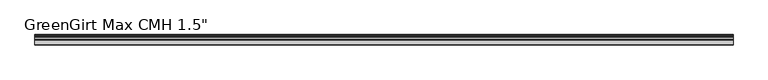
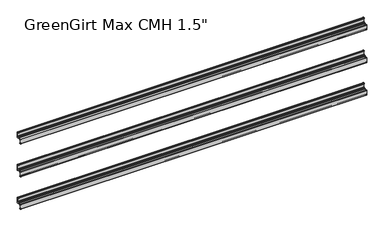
"""IFC4 building model written with IfcOpenShell, lengths in millimetres: fastener geometry."""

from ifc_helpers import new_model, si_unit, frame, origin, place, context, project, spatial, polyline, circle_curve, outline, extrude, source, transform, mapped, element, save
from ifc_brep_helpers import plane_surface, cylinder_surface, revolved_surface, advanced_brep


def fastener_4850408f(model_context):
    return source(origin(), model_context, "Body", "SolidModel", [
        advanced_brep(
        [(2540.1186361, -3.556, 882.269), (2540.1186361, -3.556, 851.281), (2540.1186361, -5.2832, 851.281), (2540.1186361, -5.2832, 855.472), (2540.1186361, -7.3152, 855.472), (2540.1186361, -7.3152, 851.281), (2540.1186361, -8.0772, 850.519), (2540.1186361, -17.7601563, 850.519), (2540.1186361, -17.7601563, 851.3674433), (2540.1186361, -20.4288947, 851.3674433), (2540.1186361, -20.4288947, 850.519), (2540.1186361, -37.3379766, 850.519), (2540.1186361, -38.0999766, 849.757), (2540.1186361, -38.1, 813.5196758), (2540.1186361, -37.3379766, 812.8), (2540.1186361, -33.7057766, 812.8), (2540.1186361, -31.6737766, 814.832), (2540.1186361, -31.6737766, 817.118), (2540.1186361, -33.7057766, 817.118), (2540.1186361, -33.7057766, 816.102), (2540.1186361, -35.4329766, 816.102), (2540.1186361, -35.4329766, 847.09), (2540.1186361, -33.7057766, 847.09), (2540.1186361, -33.7057766, 842.899), (2540.1186361, -31.6737766, 842.899), (2540.1186361, -31.6737766, 847.09), (2540.1186361, -30.9117766, 847.852), (2540.1186361, -20.4279799, 847.852), (2540.1186361, -20.4279799, 847.0030993), (2540.1186361, -17.7601563, 847.0030993), (2540.1186361, -17.7601563, 847.852), (2540.1186361, -3.429, 847.852), (2540.1186361, -2.667, 847.09), (2540.1186361, -2.667, 840.994), (2540.1186361, 0.0, 840.994), (2540.1186361, 0.0, 884.809), (2540.1186361, -0.762, 885.571), (2540.1186361, -5.2832, 885.571), (2540.1186361, -7.3152, 883.539), (2540.1186361, -7.3152, 881.253), (2540.1186361, -5.2832, 881.253), (2540.1186361, -5.2832, 882.269), (0.0, -3.556, 882.269), (0.0, -5.2832, 882.269), (0.0, -5.2832, 881.253), (0.0, -7.3152, 881.253), (0.0, -7.3152, 883.539), (0.0, -5.2832, 885.571), (0.0, -0.762, 885.571), (0.0, 0.0, 884.809), (0.0, 0.0, 840.994), (0.0, -2.667, 840.994), (0.0, -2.667, 847.09), (0.0, -3.429, 847.852), (0.0, -17.7601563, 847.852), (0.0, -17.7601563, 847.0030993), (0.0, -20.4279799, 847.0030993), (0.0, -20.4279799, 847.852), (0.0, -30.9117766, 847.852), (0.0, -31.6737766, 847.09), (0.0, -31.6737766, 842.899), (0.0, -33.7057766, 842.899), (0.0, -33.7057766, 847.09), (0.0, -35.4329766, 847.09), (0.0, -35.4329766, 816.102), (0.0, -33.7057766, 816.102), (0.0, -33.7057766, 817.118), (0.0, -31.6737766, 817.118), (0.0, -31.6737766, 814.832), (0.0, -33.7057766, 812.8), (0.0, -37.3379766, 812.8), (0.0, -38.0999766, 813.562), (0.0, -38.1, 849.6242174), (0.0, -37.3379766, 850.519), (0.0, -20.4288947, 850.519), (0.0, -20.4288947, 851.3674433), (0.0, -17.7601563, 851.3674433), (0.0, -17.7601563, 850.519), (0.0, -8.0772, 850.519), (0.0, -7.3152, 851.281), (0.0, -7.3152, 855.472), (0.0, -5.2832, 855.472), (0.0, -5.2832, 851.281), (0.0, -3.556, 851.281)],
        [
            (0, 1),
            (1, 2, circle_curve(frame((2540.1186361, -4.4196, 851.281), z_axis=(-1.0, 0.0, 0.0), x_axis=(0.0, 1.0, 0.0)), 0.8636)),
            (2, 3),
            (3, 4, circle_curve(frame((2540.1186361, -6.2992, 855.472), z_axis=(1.0, 0.0, 0.0), x_axis=(0.0, 1.0, 0.0)), 1.016)),
            (4, 5),
            (5, 6, circle_curve(frame((2540.1186361, -8.0772, 851.281), z_axis=(-1.0, 0.0, 0.0), x_axis=(0.0, 1.0, 0.0)), 0.762)),
            (6, 7),
            (7, 8),
            (8, 9, circle_curve(frame((2540.1186361, -19.0945255, 851.3674433), z_axis=(1.0, 0.0, 0.0), x_axis=(0.0, 1.0, 0.0)), 1.3343692)),
            (9, 10),
            (10, 11),
            (11, 12, circle_curve(frame((2540.1186361, -37.3379766, 849.757), z_axis=(1.0, 0.0, 0.0), x_axis=(0.0, 1.0, 0.0)), 0.762)),
            (12, 13),
            (13, 14, circle_curve(frame((2540.1186361, -37.3379766, 813.562), z_axis=(1.0, 0.0, 0.0), x_axis=(0.0, 1.0, 0.0)), 0.762)),
            (14, 15),
            (15, 16, circle_curve(frame((2540.1186361, -33.7057766, 814.832), z_axis=(1.0, 0.0, 0.0), x_axis=(0.0, 1.0, 0.0)), 2.032)),
            (16, 17),
            (17, 18, circle_curve(frame((2540.1186361, -32.6897766, 817.118), z_axis=(1.0, 0.0, 0.0), x_axis=(0.0, 1.0, 0.0)), 1.016)),
            (18, 19),
            (19, 20, circle_curve(frame((2540.1186361, -34.5693766, 816.102), z_axis=(-1.0, 0.0, 0.0), x_axis=(0.0, 1.0, 0.0)), 0.8636)),
            (20, 21),
            (21, 22, circle_curve(frame((2540.1186361, -34.5693766, 847.09), z_axis=(-1.0, 0.0, 0.0), x_axis=(0.0, 1.0, 0.0)), 0.8636)),
            (22, 23),
            (23, 24, circle_curve(frame((2540.1186361, -32.6897766, 842.899), z_axis=(1.0, 0.0, 0.0), x_axis=(0.0, 1.0, 0.0)), 1.016)),
            (24, 25),
            (25, 26, circle_curve(frame((2540.1186361, -30.9117766, 847.09), z_axis=(-1.0, 0.0, 0.0), x_axis=(0.0, 1.0, 0.0)), 0.762)),
            (26, 27),
            (27, 28),
            (28, 29, circle_curve(frame((2540.1186361, -19.0940681, 847.0030993), z_axis=(1.0, 0.0, 0.0), x_axis=(0.0, 1.0, 0.0)), 1.3339118)),
            (29, 30),
            (30, 31),
            (31, 32, circle_curve(frame((2540.1186361, -3.429, 847.09), z_axis=(-1.0, 0.0, 0.0), x_axis=(0.0, 1.0, 0.0)), 0.762)),
            (32, 33),
            (33, 34, circle_curve(frame((2540.1186361, -1.3335, 840.994), z_axis=(1.0, 0.0, 0.0), x_axis=(0.0, 1.0, 0.0)), 1.3335)),
            (34, 35),
            (35, 36, circle_curve(frame((2540.1186361, -0.762, 884.809), z_axis=(1.0, 0.0, 0.0), x_axis=(0.0, 1.0, 0.0)), 0.762)),
            (36, 37),
            (37, 38, circle_curve(frame((2540.1186361, -5.2832, 883.539), z_axis=(1.0, 0.0, 0.0), x_axis=(0.0, 1.0, 0.0)), 2.032)),
            (38, 39),
            (39, 40, circle_curve(frame((2540.1186361, -6.2992, 881.253), z_axis=(1.0, 0.0, 0.0), x_axis=(0.0, 1.0, 0.0)), 1.016)),
            (40, 41),
            (41, 0, circle_curve(frame((2540.1186361, -4.4196, 882.269), z_axis=(-1.0, 0.0, 0.0), x_axis=(0.0, 1.0, 0.0)), 0.8636)),
            (42, 43, circle_curve(frame((0.0, -4.4196, 882.269), z_axis=(1.0, 0.0, 0.0), x_axis=(0.0, 1.0, 0.0)), 0.8636)),
            (43, 44),
            (44, 45, circle_curve(frame((0.0, -6.2992, 881.253), z_axis=(-1.0, 0.0, 0.0), x_axis=(0.0, 1.0, 0.0)), 1.016)),
            (45, 46),
            (46, 47, circle_curve(frame((0.0, -5.2832, 883.539), z_axis=(-1.0, 0.0, 0.0), x_axis=(0.0, 1.0, 0.0)), 2.032)),
            (47, 48),
            (48, 49, circle_curve(frame((0.0, -0.762, 884.809), z_axis=(-1.0, 0.0, 0.0), x_axis=(0.0, 1.0, 0.0)), 0.762)),
            (49, 50),
            (50, 51, circle_curve(frame((0.0, -1.3335, 840.994), z_axis=(-1.0, 0.0, 0.0), x_axis=(0.0, 1.0, 0.0)), 1.3335)),
            (51, 52),
            (52, 53, circle_curve(frame((0.0, -3.429, 847.09), z_axis=(1.0, 0.0, 0.0), x_axis=(0.0, 1.0, 0.0)), 0.762)),
            (53, 54),
            (54, 55),
            (55, 56, circle_curve(frame((0.0, -19.0940681, 847.0030993), z_axis=(-1.0, 0.0, 0.0), x_axis=(0.0, 1.0, 0.0)), 1.3339118)),
            (56, 57),
            (57, 58),
            (58, 59, circle_curve(frame((0.0, -30.9117766, 847.09), z_axis=(1.0, 0.0, 0.0), x_axis=(0.0, 1.0, 0.0)), 0.762)),
            (59, 60),
            (60, 61, circle_curve(frame((0.0, -32.6897766, 842.899), z_axis=(-1.0, 0.0, 0.0), x_axis=(0.0, 1.0, 0.0)), 1.016)),
            (61, 62),
            (62, 63, circle_curve(frame((0.0, -34.5693766, 847.09), z_axis=(1.0, 0.0, 0.0), x_axis=(0.0, 1.0, 0.0)), 0.8636)),
            (63, 64),
            (64, 65, circle_curve(frame((0.0, -34.5693766, 816.102), z_axis=(1.0, 0.0, 0.0), x_axis=(0.0, 1.0, 0.0)), 0.8636)),
            (65, 66),
            (66, 67, circle_curve(frame((0.0, -32.6897766, 817.118), z_axis=(-1.0, 0.0, 0.0), x_axis=(0.0, 1.0, 0.0)), 1.016)),
            (67, 68),
            (68, 69, circle_curve(frame((0.0, -33.7057766, 814.832), z_axis=(-1.0, 0.0, 0.0), x_axis=(0.0, 1.0, 0.0)), 2.032)),
            (69, 70),
            (70, 71, circle_curve(frame((0.0, -37.3379766, 813.562), z_axis=(-1.0, 0.0, 0.0), x_axis=(0.0, 1.0, 0.0)), 0.762)),
            (71, 72),
            (72, 73, circle_curve(frame((0.0, -37.3379766, 849.757), z_axis=(-1.0, 0.0, 0.0), x_axis=(0.0, 1.0, 0.0)), 0.762)),
            (73, 74),
            (74, 75),
            (75, 76, circle_curve(frame((0.0, -19.0945255, 851.3674433), z_axis=(-1.0, 0.0, 0.0), x_axis=(0.0, 1.0, 0.0)), 1.3343692)),
            (76, 77),
            (77, 78),
            (78, 79, circle_curve(frame((0.0, -8.0772, 851.281), z_axis=(1.0, 0.0, 0.0), x_axis=(0.0, 1.0, 0.0)), 0.762)),
            (79, 80),
            (80, 81, circle_curve(frame((0.0, -6.2992, 855.472), z_axis=(-1.0, 0.0, 0.0), x_axis=(0.0, 1.0, 0.0)), 1.016)),
            (81, 82),
            (82, 83, circle_curve(frame((0.0, -4.4196, 851.281), z_axis=(1.0, 0.0, 0.0), x_axis=(0.0, 1.0, 0.0)), 0.8636)),
            (83, 42),
            (0, 42),
            (83, 1),
            (82, 2),
            (81, 3),
            (80, 4),
            (79, 5),
            (78, 6),
            (77, 7),
            (76, 8),
            (75, 9),
            (74, 10),
            (73, 11),
            (72, 12),
            (71, 13),
            (70, 14),
            (69, 15),
            (68, 16),
            (67, 17),
            (66, 18),
            (65, 19),
            (64, 20),
            (63, 21),
            (62, 22),
            (61, 23),
            (60, 24),
            (59, 25),
            (58, 26),
            (57, 27),
            (56, 28),
            (55, 29),
            (54, 30),
            (53, 31),
            (52, 32),
            (51, 33),
            (50, 34),
            (49, 35),
            (48, 36),
            (47, 37),
            (46, 38),
            (45, 39),
            (44, 40),
            (43, 41),
        ],
        [
            plane_surface(frame((2540.1186361, -3.556, 851.281), z_axis=(1.0, 0.0, 0.0), x_axis=(0.0, 0.0, -1.0))),
            plane_surface(frame((0.0, -3.556, 851.281), z_axis=(-1.0, 0.0, 0.0), x_axis=(0.0, 0.0, 1.0))),
            plane_surface(frame((2540.1186361, -3.556, 882.269), z_axis=(0.0, -1.0, 0.0), x_axis=(-1.0, 0.0, 0.0))),
            revolved_surface(polyline([(0.0, -3.556, 851.281), (2540.1186361, -3.556, 851.281)]), (0.0, -4.4196, 851.281), (-1.0, 0.0, 0.0)),
            plane_surface(frame((2540.1186361, -5.2832, 851.281), z_axis=(0.0, 1.0, 0.0), x_axis=(-1.0, 0.0, 0.0))),
            cylinder_surface(frame((0.0, -6.2992, 855.472), z_axis=(1.0, 0.0, 0.0), x_axis=(0.0, 1.0, 0.0)), 1.016),
            plane_surface(frame((2540.1186361, -7.3152, 855.472), z_axis=(0.0, -1.0, 0.0), x_axis=(-1.0, 0.0, 0.0))),
            revolved_surface(polyline([(0.0, -7.315199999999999, 851.281), (2540.1186361, -7.315199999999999, 851.281)]), (0.0, -8.0772, 851.281), (-1.0, 0.0, 0.0)),
            plane_surface(frame((2540.1186361, -8.0772, 850.519), z_axis=(0.0, 0.0, 1.0), x_axis=(-1.0, 0.0, 0.0))),
            plane_surface(frame((2540.1186361, -17.7601563, 850.519), z_axis=(0.0, 1.0, 0.0), x_axis=(-1.0, 0.0, 0.0))),
            cylinder_surface(frame((0.0, -19.0945255, 851.3674433), z_axis=(1.0, 0.0, 0.0), x_axis=(0.0, 1.0, 0.0)), 1.3343692),
            plane_surface(frame((2540.1186361, -20.4288947, 851.3674433), z_axis=(0.0, -1.0, 0.0), x_axis=(-1.0, 0.0, 0.0))),
            plane_surface(frame((2540.1186361, -20.4288947, 850.519), z_axis=(0.0, 0.0, 1.0), x_axis=(-1.0, 0.0, 0.0))),
            cylinder_surface(frame((0.0, -37.3379766, 849.757), z_axis=(1.0, 0.0, 0.0), x_axis=(0.0, 1.0, 0.0)), 0.762),
            plane_surface(frame((2540.1186361, -38.1, 849.6242174), z_axis=(0.0, -1.0, 0.0), x_axis=(-1.0, 0.0, 0.0))),
            cylinder_surface(frame((0.0, -37.3379766, 813.562), z_axis=(1.0, 0.0, 0.0), x_axis=(0.0, 1.0, 0.0)), 0.762),
            plane_surface(frame((2540.1186361, -37.3379766, 812.8), z_axis=(0.0, 1.080720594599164e-12, -1.0), x_axis=(-1.0, 0.0, 0.0))),
            cylinder_surface(frame((0.0, -33.7057766, 814.832), z_axis=(1.0, 0.0, 0.0), x_axis=(0.0, 1.0, 0.0)), 2.032),
            plane_surface(frame((2540.1186361, -31.6737766, 814.832), z_axis=(0.0, 1.0, 0.0), x_axis=(-1.0, 0.0, 0.0))),
            cylinder_surface(frame((0.0, -32.6897766, 817.118), z_axis=(1.0, 0.0, 0.0), x_axis=(0.0, 1.0, 0.0)), 1.016),
            plane_surface(frame((2540.1186361, -33.7057766, 817.118), z_axis=(0.0, -1.0, 0.0), x_axis=(-1.0, 0.0, 0.0))),
            revolved_surface(polyline([(0.0, -33.7057766, 816.102), (2540.1186361, -33.7057766, 816.102)]), (0.0, -34.5693766, 816.102), (-1.0, 0.0, 0.0)),
            plane_surface(frame((2540.1186361, -35.4329766, 816.102), z_axis=(0.0, 1.0, 0.0), x_axis=(-1.0, 0.0, 0.0))),
            revolved_surface(polyline([(0.0, -33.7057766, 847.09), (2540.1186361, -33.7057766, 847.09)]), (0.0, -34.5693766, 847.09), (-1.0, 0.0, 0.0)),
            plane_surface(frame((2540.1186361, -33.7057766, 847.09), z_axis=(0.0, -1.0, 0.0), x_axis=(-1.0, 0.0, 0.0))),
            cylinder_surface(frame((0.0, -32.6897766, 842.899), z_axis=(1.0, 0.0, 0.0), x_axis=(0.0, 1.0, 0.0)), 1.016),
            plane_surface(frame((2540.1186361, -31.6737766, 842.899), z_axis=(0.0, 1.0, 0.0), x_axis=(-1.0, 0.0, 0.0))),
            revolved_surface(polyline([(0.0, -30.1497766, 847.09), (2540.1186361, -30.1497766, 847.09)]), (0.0, -30.9117766, 847.09), (-1.0, 0.0, 0.0)),
            plane_surface(frame((2540.1186361, -30.9117766, 847.852), z_axis=(0.0, 0.0, -1.0), x_axis=(-1.0, 0.0, 0.0))),
            plane_surface(frame((2540.1186361, -20.4279799, 847.852), z_axis=(0.0, -1.0, 0.0), x_axis=(-1.0, 0.0, 0.0))),
            cylinder_surface(frame((0.0, -19.0940681, 847.0030993), z_axis=(1.0, 0.0, 0.0), x_axis=(0.0, 1.0, 0.0)), 1.3339118),
            plane_surface(frame((2540.1186361, -17.7601563, 847.0030993), z_axis=(0.0, 1.0, 0.0), x_axis=(-1.0, 0.0, 0.0))),
            plane_surface(frame((2540.1186361, -17.7601563, 847.852), z_axis=(0.0, 0.0, -1.0), x_axis=(-1.0, 0.0, 0.0))),
            revolved_surface(polyline([(0.0, -2.667, 847.09), (2540.1186361, -2.667, 847.09)]), (0.0, -3.429, 847.09), (-1.0, 0.0, 0.0)),
            plane_surface(frame((2540.1186361, -2.667, 847.09), z_axis=(0.0, -1.0, 0.0), x_axis=(-1.0, 0.0, 0.0))),
            cylinder_surface(frame((0.0, -1.3335, 840.994), z_axis=(1.0, 0.0, 0.0), x_axis=(0.0, 1.0, 0.0)), 1.3335),
            plane_surface(frame((2540.1186361, 0.0, 840.994), z_axis=(0.0, 1.0, 0.0), x_axis=(-1.0, 0.0, 0.0))),
            cylinder_surface(frame((0.0, -0.762, 884.809), z_axis=(1.0, 0.0, 0.0), x_axis=(0.0, 1.0, 0.0)), 0.762),
            plane_surface(frame((2540.1186361, -0.762, 885.571), z_axis=(0.0, 1.6915308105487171e-12, 1.0), x_axis=(-1.0, 0.0, 0.0))),
            cylinder_surface(frame((0.0, -5.2832, 883.539), z_axis=(1.0, 0.0, 0.0), x_axis=(0.0, 1.0, 0.0)), 2.032),
            plane_surface(frame((2540.1186361, -7.3152, 883.539), z_axis=(0.0, -1.0, 0.0), x_axis=(-1.0, 0.0, 0.0))),
            cylinder_surface(frame((0.0, -6.2992, 881.253), z_axis=(1.0, 0.0, 0.0), x_axis=(0.0, 1.0, 0.0)), 1.016),
            plane_surface(frame((2540.1186361, -5.2832, 881.253), z_axis=(0.0, 1.0, 0.0), x_axis=(-1.0, 0.0, 0.0))),
            revolved_surface(polyline([(0.0, -3.556, 882.269), (2540.1186361, -3.556, 882.269)]), (0.0, -4.4196, 882.269), (-1.0, 0.0, 0.0)),
        ],
        [
            (0, [[1, 2, 3, 4, 5, 6, 7, 8, 9, 10, 11, 12, 13, 14, 15, 16, 17, 18, 19, 20, 21, 22, 23, 24, 25, 26, 27, 28, 29, 30, 31, 32, 33, 34, 35, 36, 37, 38, 39, 40, 41, 42]]),
            (1, [[43, 44, 45, 46, 47, 48, 49, 50, 51, 52, 53, 54, 55, 56, 57, 58, 59, 60, 61, 62, 63, 64, 65, 66, 67, 68, 69, 70, 71, 72, 73, 74, 75, 76, 77, 78, 79, 80, 81, 82, 83, 84]]),
            (2, [[-1, 85, -84, 86]]),
            (3, [[-2, -86, -83, 87]]),
            (4, [[-3, -87, -82, 88]]),
            (5, [[-4, -88, -81, 89]]),
            (6, [[-5, -89, -80, 90]]),
            (7, [[-6, -90, -79, 91]]),
            (8, [[-7, -91, -78, 92]]),
            (9, [[-8, -92, -77, 93]]),
            (10, [[-9, -93, -76, 94]]),
            (11, [[-10, -94, -75, 95]]),
            (12, [[-11, -95, -74, 96]]),
            (13, [[-12, -96, -73, 97]]),
            (14, [[-13, -97, -72, 98]]),
            (15, [[-14, -98, -71, 99]]),
            (16, [[-15, -99, -70, 100]]),
            (17, [[-16, -100, -69, 101]]),
            (18, [[-17, -101, -68, 102]]),
            (19, [[-18, -102, -67, 103]]),
            (20, [[-19, -103, -66, 104]]),
            (21, [[-20, -104, -65, 105]]),
            (22, [[-21, -105, -64, 106]]),
            (23, [[-22, -106, -63, 107]]),
            (24, [[-23, -107, -62, 108]]),
            (25, [[-24, -108, -61, 109]]),
            (26, [[-25, -109, -60, 110]]),
            (27, [[-26, -110, -59, 111]]),
            (28, [[-27, -111, -58, 112]]),
            (29, [[-28, -112, -57, 113]]),
            (30, [[-29, -113, -56, 114]]),
            (31, [[-30, -114, -55, 115]]),
            (32, [[-31, -115, -54, 116]]),
            (33, [[-32, -116, -53, 117]]),
            (34, [[-33, -117, -52, 118]]),
            (35, [[-34, -118, -51, 119]]),
            (36, [[-35, -119, -50, 120]]),
            (37, [[-36, -120, -49, 121]]),
            (38, [[-37, -121, -48, 122]]),
            (39, [[-38, -122, -47, 123]]),
            (40, [[-39, -123, -46, 124]]),
            (41, [[-40, -124, -45, 125]]),
            (42, [[-41, -125, -44, 126]]),
            (43, [[-42, -126, -43, -85]]),
        ],
    ),
        extrude(outline(polyline([(2540.1186361, -3.556), (2540.1186361, -5.2832), (0.0, -5.2832), (0.0, -3.556), (2540.1186361, -3.556)])), frame((0.0, 0.0, 851.281), z_axis=(0.0, 0.0, 1.0), x_axis=(1.0, 0.0, 0.0)), (0.0, 0.0, 1.0), 30.988),
        extrude(outline(polyline([(2540.1186361, -33.7057766), (2540.1186361, -35.4329766), (0.0, -35.4329766), (0.0, -33.7057766), (2540.1186361, -33.7057766)])), frame((0.0, 0.0, 816.102), z_axis=(0.0, 0.0, 1.0), x_axis=(1.0, 0.0, 0.0)), (0.0, 0.0, 1.0), 30.988),
        advanced_brep(
        [(2540.1186361, -3.556, 628.269), (2540.1186361, -3.556, 597.281), (2540.1186361, -5.2832, 597.281), (2540.1186361, -5.2832, 601.472), (2540.1186361, -7.3152, 601.472), (2540.1186361, -7.3152, 597.281), (2540.1186361, -8.0772, 596.519), (2540.1186361, -17.7601563, 596.519), (2540.1186361, -17.7601563, 597.3674433), (2540.1186361, -20.4288947, 597.3674433), (2540.1186361, -20.4288947, 596.519), (2540.1186361, -37.3379766, 596.519), (2540.1186361, -38.0999766, 595.757), (2540.1186361, -38.1, 559.5196758), (2540.1186361, -37.3379766, 558.8), (2540.1186361, -33.7057766, 558.8), (2540.1186361, -31.6737766, 560.832), (2540.1186361, -31.6737766, 563.118), (2540.1186361, -33.7057766, 563.118), (2540.1186361, -33.7057766, 562.102), (2540.1186361, -35.4329766, 562.102), (2540.1186361, -35.4329766, 593.09), (2540.1186361, -33.7057766, 593.09), (2540.1186361, -33.7057766, 588.899), (2540.1186361, -31.6737766, 588.899), (2540.1186361, -31.6737766, 593.09), (2540.1186361, -30.9117766, 593.852), (2540.1186361, -20.4279799, 593.852), (2540.1186361, -20.4279799, 593.0030993), (2540.1186361, -17.7601563, 593.0030993), (2540.1186361, -17.7601563, 593.852), (2540.1186361, -3.429, 593.852), (2540.1186361, -2.667, 593.09), (2540.1186361, -2.667, 586.994), (2540.1186361, 0.0, 586.994), (2540.1186361, 0.0, 630.809), (2540.1186361, -0.762, 631.571), (2540.1186361, -5.2832, 631.571), (2540.1186361, -7.3152, 629.539), (2540.1186361, -7.3152, 627.253), (2540.1186361, -5.2832, 627.253), (2540.1186361, -5.2832, 628.269), (0.0, -3.556, 628.269), (0.0, -5.2832, 628.269), (0.0, -5.2832, 627.253), (0.0, -7.3152, 627.253), (0.0, -7.3152, 629.539), (0.0, -5.2832, 631.571), (0.0, -0.762, 631.571), (0.0, 0.0, 630.809), (0.0, 0.0, 586.994), (0.0, -2.667, 586.994), (0.0, -2.667, 593.09), (0.0, -3.429, 593.852), (0.0, -17.7601563, 593.852), (0.0, -17.7601563, 593.0030993), (0.0, -20.4279799, 593.0030993), (0.0, -20.4279799, 593.852), (0.0, -30.9117766, 593.852), (0.0, -31.6737766, 593.09), (0.0, -31.6737766, 588.899), (0.0, -33.7057766, 588.899), (0.0, -33.7057766, 593.09), (0.0, -35.4329766, 593.09), (0.0, -35.4329766, 562.102), (0.0, -33.7057766, 562.102), (0.0, -33.7057766, 563.118), (0.0, -31.6737766, 563.118), (0.0, -31.6737766, 560.832), (0.0, -33.7057766, 558.8), (0.0, -37.3379766, 558.8), (0.0, -38.0999766, 559.562), (0.0, -38.1, 595.6242174), (0.0, -37.3379766, 596.519), (0.0, -20.4288947, 596.519), (0.0, -20.4288947, 597.3674433), (0.0, -17.7601563, 597.3674433), (0.0, -17.7601563, 596.519), (0.0, -8.0772, 596.519), (0.0, -7.3152, 597.281), (0.0, -7.3152, 601.472), (0.0, -5.2832, 601.472), (0.0, -5.2832, 597.281), (0.0, -3.556, 597.281)],
        [
            (0, 1),
            (1, 2, circle_curve(frame((2540.1186361, -4.4196, 597.281), z_axis=(-1.0, 0.0, 0.0), x_axis=(0.0, 1.0, 0.0)), 0.8636)),
            (2, 3),
            (3, 4, circle_curve(frame((2540.1186361, -6.2992, 601.472), z_axis=(1.0, 0.0, 0.0), x_axis=(0.0, 1.0, 0.0)), 1.016)),
            (4, 5),
            (5, 6, circle_curve(frame((2540.1186361, -8.0772, 597.281), z_axis=(-1.0, 0.0, 0.0), x_axis=(0.0, 1.0, 0.0)), 0.762)),
            (6, 7),
            (7, 8),
            (8, 9, circle_curve(frame((2540.1186361, -19.0945255, 597.3674433), z_axis=(1.0, 0.0, 0.0), x_axis=(0.0, 1.0, 0.0)), 1.3343692)),
            (9, 10),
            (10, 11),
            (11, 12, circle_curve(frame((2540.1186361, -37.3379766, 595.757), z_axis=(1.0, 0.0, 0.0), x_axis=(0.0, 1.0, 0.0)), 0.762)),
            (12, 13),
            (13, 14, circle_curve(frame((2540.1186361, -37.3379766, 559.562), z_axis=(1.0, 0.0, 0.0), x_axis=(0.0, 1.0, 0.0)), 0.762)),
            (14, 15),
            (15, 16, circle_curve(frame((2540.1186361, -33.7057766, 560.832), z_axis=(1.0, 0.0, 0.0), x_axis=(0.0, 1.0, 0.0)), 2.032)),
            (16, 17),
            (17, 18, circle_curve(frame((2540.1186361, -32.6897766, 563.118), z_axis=(1.0, 0.0, 0.0), x_axis=(0.0, 1.0, 0.0)), 1.016)),
            (18, 19),
            (19, 20, circle_curve(frame((2540.1186361, -34.5693766, 562.102), z_axis=(-1.0, 0.0, 0.0), x_axis=(0.0, 1.0, 0.0)), 0.8636)),
            (20, 21),
            (21, 22, circle_curve(frame((2540.1186361, -34.5693766, 593.09), z_axis=(-1.0, 0.0, 0.0), x_axis=(0.0, 1.0, 0.0)), 0.8636)),
            (22, 23),
            (23, 24, circle_curve(frame((2540.1186361, -32.6897766, 588.899), z_axis=(1.0, 0.0, 0.0), x_axis=(0.0, 1.0, 0.0)), 1.016)),
            (24, 25),
            (25, 26, circle_curve(frame((2540.1186361, -30.9117766, 593.09), z_axis=(-1.0, 0.0, 0.0), x_axis=(0.0, 1.0, 0.0)), 0.762)),
            (26, 27),
            (27, 28),
            (28, 29, circle_curve(frame((2540.1186361, -19.0940681, 593.0030993), z_axis=(1.0, 0.0, 0.0), x_axis=(0.0, 1.0, 0.0)), 1.3339118)),
            (29, 30),
            (30, 31),
            (31, 32, circle_curve(frame((2540.1186361, -3.429, 593.09), z_axis=(-1.0, 0.0, 0.0), x_axis=(0.0, 1.0, 0.0)), 0.762)),
            (32, 33),
            (33, 34, circle_curve(frame((2540.1186361, -1.3335, 586.994), z_axis=(1.0, 0.0, 0.0), x_axis=(0.0, 1.0, 0.0)), 1.3335)),
            (34, 35),
            (35, 36, circle_curve(frame((2540.1186361, -0.762, 630.809), z_axis=(1.0, 0.0, 0.0), x_axis=(0.0, 1.0, 0.0)), 0.762)),
            (36, 37),
            (37, 38, circle_curve(frame((2540.1186361, -5.2832, 629.539), z_axis=(1.0, 0.0, 0.0), x_axis=(0.0, 1.0, 0.0)), 2.032)),
            (38, 39),
            (39, 40, circle_curve(frame((2540.1186361, -6.2992, 627.253), z_axis=(1.0, 0.0, 0.0), x_axis=(0.0, 1.0, 0.0)), 1.016)),
            (40, 41),
            (41, 0, circle_curve(frame((2540.1186361, -4.4196, 628.269), z_axis=(-1.0, 0.0, 0.0), x_axis=(0.0, 1.0, 0.0)), 0.8636)),
            (42, 43, circle_curve(frame((0.0, -4.4196, 628.269), z_axis=(1.0, 0.0, 0.0), x_axis=(0.0, 1.0, 0.0)), 0.8636)),
            (43, 44),
            (44, 45, circle_curve(frame((0.0, -6.2992, 627.253), z_axis=(-1.0, 0.0, 0.0), x_axis=(0.0, 1.0, 0.0)), 1.016)),
            (45, 46),
            (46, 47, circle_curve(frame((0.0, -5.2832, 629.539), z_axis=(-1.0, 0.0, 0.0), x_axis=(0.0, 1.0, 0.0)), 2.032)),
            (47, 48),
            (48, 49, circle_curve(frame((0.0, -0.762, 630.809), z_axis=(-1.0, 0.0, 0.0), x_axis=(0.0, 1.0, 0.0)), 0.762)),
            (49, 50),
            (50, 51, circle_curve(frame((0.0, -1.3335, 586.994), z_axis=(-1.0, 0.0, 0.0), x_axis=(0.0, 1.0, 0.0)), 1.3335)),
            (51, 52),
            (52, 53, circle_curve(frame((0.0, -3.429, 593.09), z_axis=(1.0, 0.0, 0.0), x_axis=(0.0, 1.0, 0.0)), 0.762)),
            (53, 54),
            (54, 55),
            (55, 56, circle_curve(frame((0.0, -19.0940681, 593.0030993), z_axis=(-1.0, 0.0, 0.0), x_axis=(0.0, 1.0, 0.0)), 1.3339118)),
            (56, 57),
            (57, 58),
            (58, 59, circle_curve(frame((0.0, -30.9117766, 593.09), z_axis=(1.0, 0.0, 0.0), x_axis=(0.0, 1.0, 0.0)), 0.762)),
            (59, 60),
            (60, 61, circle_curve(frame((0.0, -32.6897766, 588.899), z_axis=(-1.0, 0.0, 0.0), x_axis=(0.0, 1.0, 0.0)), 1.016)),
            (61, 62),
            (62, 63, circle_curve(frame((0.0, -34.5693766, 593.09), z_axis=(1.0, 0.0, 0.0), x_axis=(0.0, 1.0, 0.0)), 0.8636)),
            (63, 64),
            (64, 65, circle_curve(frame((0.0, -34.5693766, 562.102), z_axis=(1.0, 0.0, 0.0), x_axis=(0.0, 1.0, 0.0)), 0.8636)),
            (65, 66),
            (66, 67, circle_curve(frame((0.0, -32.6897766, 563.118), z_axis=(-1.0, 0.0, 0.0), x_axis=(0.0, 1.0, 0.0)), 1.016)),
            (67, 68),
            (68, 69, circle_curve(frame((0.0, -33.7057766, 560.832), z_axis=(-1.0, 0.0, 0.0), x_axis=(0.0, 1.0, 0.0)), 2.032)),
            (69, 70),
            (70, 71, circle_curve(frame((0.0, -37.3379766, 559.562), z_axis=(-1.0, 0.0, 0.0), x_axis=(0.0, 1.0, 0.0)), 0.762)),
            (71, 72),
            (72, 73, circle_curve(frame((0.0, -37.3379766, 595.757), z_axis=(-1.0, 0.0, 0.0), x_axis=(0.0, 1.0, 0.0)), 0.762)),
            (73, 74),
            (74, 75),
            (75, 76, circle_curve(frame((0.0, -19.0945255, 597.3674433), z_axis=(-1.0, 0.0, 0.0), x_axis=(0.0, 1.0, 0.0)), 1.3343692)),
            (76, 77),
            (77, 78),
            (78, 79, circle_curve(frame((0.0, -8.0772, 597.281), z_axis=(1.0, 0.0, 0.0), x_axis=(0.0, 1.0, 0.0)), 0.762)),
            (79, 80),
            (80, 81, circle_curve(frame((0.0, -6.2992, 601.472), z_axis=(-1.0, 0.0, 0.0), x_axis=(0.0, 1.0, 0.0)), 1.016)),
            (81, 82),
            (82, 83, circle_curve(frame((0.0, -4.4196, 597.281), z_axis=(1.0, 0.0, 0.0), x_axis=(0.0, 1.0, 0.0)), 0.8636)),
            (83, 42),
            (0, 42),
            (83, 1),
            (82, 2),
            (81, 3),
            (80, 4),
            (79, 5),
            (78, 6),
            (77, 7),
            (76, 8),
            (75, 9),
            (74, 10),
            (73, 11),
            (72, 12),
            (71, 13),
            (70, 14),
            (69, 15),
            (68, 16),
            (67, 17),
            (66, 18),
            (65, 19),
            (64, 20),
            (63, 21),
            (62, 22),
            (61, 23),
            (60, 24),
            (59, 25),
            (58, 26),
            (57, 27),
            (56, 28),
            (55, 29),
            (54, 30),
            (53, 31),
            (52, 32),
            (51, 33),
            (50, 34),
            (49, 35),
            (48, 36),
            (47, 37),
            (46, 38),
            (45, 39),
            (44, 40),
            (43, 41),
        ],
        [
            plane_surface(frame((2540.1186361, -3.556, 597.281), z_axis=(1.0, 0.0, 0.0), x_axis=(0.0, 0.0, -1.0))),
            plane_surface(frame((0.0, -3.556, 597.281), z_axis=(-1.0, 0.0, 0.0), x_axis=(0.0, 0.0, 1.0))),
            plane_surface(frame((2540.1186361, -3.556, 628.269), z_axis=(0.0, -1.0, 0.0), x_axis=(-1.0, 0.0, 0.0))),
            revolved_surface(polyline([(0.0, -3.556, 597.281), (2540.1186361, -3.556, 597.281)]), (0.0, -4.4196, 597.281), (-1.0, 0.0, 0.0)),
            plane_surface(frame((2540.1186361, -5.2832, 597.281), z_axis=(0.0, 1.0, 0.0), x_axis=(-1.0, 0.0, 0.0))),
            cylinder_surface(frame((0.0, -6.2992, 601.472), z_axis=(1.0, 0.0, 0.0), x_axis=(0.0, 1.0, 0.0)), 1.016),
            plane_surface(frame((2540.1186361, -7.3152, 601.472), z_axis=(0.0, -1.0, 0.0), x_axis=(-1.0, 0.0, 0.0))),
            revolved_surface(polyline([(0.0, -7.315199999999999, 597.281), (2540.1186361, -7.315199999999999, 597.281)]), (0.0, -8.0772, 597.281), (-1.0, 0.0, 0.0)),
            plane_surface(frame((2540.1186361, -8.0772, 596.519), z_axis=(0.0, 0.0, 1.0), x_axis=(-1.0, 0.0, 0.0))),
            plane_surface(frame((2540.1186361, -17.7601563, 596.519), z_axis=(0.0, 1.0, 0.0), x_axis=(-1.0, 0.0, 0.0))),
            cylinder_surface(frame((0.0, -19.0945255, 597.3674433), z_axis=(1.0, 0.0, 0.0), x_axis=(0.0, 1.0, 0.0)), 1.3343692),
            plane_surface(frame((2540.1186361, -20.4288947, 597.3674433), z_axis=(0.0, -1.0, 0.0), x_axis=(-1.0, 0.0, 0.0))),
            plane_surface(frame((2540.1186361, -20.4288947, 596.519), z_axis=(0.0, 0.0, 1.0), x_axis=(-1.0, 0.0, 0.0))),
            cylinder_surface(frame((0.0, -37.3379766, 595.757), z_axis=(1.0, 0.0, 0.0), x_axis=(0.0, 1.0, 0.0)), 0.762),
            plane_surface(frame((2540.1186361, -38.1, 595.6242174), z_axis=(0.0, -1.0, 0.0), x_axis=(-1.0, 0.0, 0.0))),
            cylinder_surface(frame((0.0, -37.3379766, 559.562), z_axis=(1.0, 0.0, 0.0), x_axis=(0.0, 1.0, 0.0)), 0.762),
            plane_surface(frame((2540.1186361, -37.3379766, 558.8), z_axis=(0.0, 1.080720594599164e-12, -1.0), x_axis=(-1.0, 0.0, 0.0))),
            cylinder_surface(frame((0.0, -33.7057766, 560.832), z_axis=(1.0, 0.0, 0.0), x_axis=(0.0, 1.0, 0.0)), 2.032),
            plane_surface(frame((2540.1186361, -31.6737766, 560.832), z_axis=(0.0, 1.0, 0.0), x_axis=(-1.0, 0.0, 0.0))),
            cylinder_surface(frame((0.0, -32.6897766, 563.118), z_axis=(1.0, 0.0, 0.0), x_axis=(0.0, 1.0, 0.0)), 1.016),
            plane_surface(frame((2540.1186361, -33.7057766, 563.118), z_axis=(0.0, -1.0, 0.0), x_axis=(-1.0, 0.0, 0.0))),
            revolved_surface(polyline([(0.0, -33.7057766, 562.102), (2540.1186361, -33.7057766, 562.102)]), (0.0, -34.5693766, 562.102), (-1.0, 0.0, 0.0)),
            plane_surface(frame((2540.1186361, -35.4329766, 562.102), z_axis=(0.0, 1.0, 0.0), x_axis=(-1.0, 0.0, 0.0))),
            revolved_surface(polyline([(0.0, -33.7057766, 593.09), (2540.1186361, -33.7057766, 593.09)]), (0.0, -34.5693766, 593.09), (-1.0, 0.0, 0.0)),
            plane_surface(frame((2540.1186361, -33.7057766, 593.09), z_axis=(0.0, -1.0, 0.0), x_axis=(-1.0, 0.0, 0.0))),
            cylinder_surface(frame((0.0, -32.6897766, 588.899), z_axis=(1.0, 0.0, 0.0), x_axis=(0.0, 1.0, 0.0)), 1.016),
            plane_surface(frame((2540.1186361, -31.6737766, 588.899), z_axis=(0.0, 1.0, 0.0), x_axis=(-1.0, 0.0, 0.0))),
            revolved_surface(polyline([(0.0, -30.1497766, 593.09), (2540.1186361, -30.1497766, 593.09)]), (0.0, -30.9117766, 593.09), (-1.0, 0.0, 0.0)),
            plane_surface(frame((2540.1186361, -30.9117766, 593.852), z_axis=(0.0, 0.0, -1.0), x_axis=(-1.0, 0.0, 0.0))),
            plane_surface(frame((2540.1186361, -20.4279799, 593.852), z_axis=(0.0, -1.0, 0.0), x_axis=(-1.0, 0.0, 0.0))),
            cylinder_surface(frame((0.0, -19.0940681, 593.0030993), z_axis=(1.0, 0.0, 0.0), x_axis=(0.0, 1.0, 0.0)), 1.3339118),
            plane_surface(frame((2540.1186361, -17.7601563, 593.0030993), z_axis=(0.0, 1.0, 0.0), x_axis=(-1.0, 0.0, 0.0))),
            plane_surface(frame((2540.1186361, -17.7601563, 593.852), z_axis=(0.0, 0.0, -1.0), x_axis=(-1.0, 0.0, 0.0))),
            revolved_surface(polyline([(0.0, -2.667, 593.09), (2540.1186361, -2.667, 593.09)]), (0.0, -3.429, 593.09), (-1.0, 0.0, 0.0)),
            plane_surface(frame((2540.1186361, -2.667, 593.09), z_axis=(0.0, -1.0, 0.0), x_axis=(-1.0, 0.0, 0.0))),
            cylinder_surface(frame((0.0, -1.3335, 586.994), z_axis=(1.0, 0.0, 0.0), x_axis=(0.0, 1.0, 0.0)), 1.3335),
            plane_surface(frame((2540.1186361, 0.0, 586.994), z_axis=(0.0, 1.0, 0.0), x_axis=(-1.0, 0.0, 0.0))),
            cylinder_surface(frame((0.0, -0.762, 630.809), z_axis=(1.0, 0.0, 0.0), x_axis=(0.0, 1.0, 0.0)), 0.762),
            plane_surface(frame((2540.1186361, -0.762, 631.571), z_axis=(0.0, 1.6915308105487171e-12, 1.0), x_axis=(-1.0, 0.0, 0.0))),
            cylinder_surface(frame((0.0, -5.2832, 629.539), z_axis=(1.0, 0.0, 0.0), x_axis=(0.0, 1.0, 0.0)), 2.032),
            plane_surface(frame((2540.1186361, -7.3152, 629.539), z_axis=(0.0, -1.0, 0.0), x_axis=(-1.0, 0.0, 0.0))),
            cylinder_surface(frame((0.0, -6.2992, 627.253), z_axis=(1.0, 0.0, 0.0), x_axis=(0.0, 1.0, 0.0)), 1.016),
            plane_surface(frame((2540.1186361, -5.2832, 627.253), z_axis=(0.0, 1.0, 0.0), x_axis=(-1.0, 0.0, 0.0))),
            revolved_surface(polyline([(0.0, -3.556, 628.269), (2540.1186361, -3.556, 628.269)]), (0.0, -4.4196, 628.269), (-1.0, 0.0, 0.0)),
        ],
        [
            (0, [[1, 2, 3, 4, 5, 6, 7, 8, 9, 10, 11, 12, 13, 14, 15, 16, 17, 18, 19, 20, 21, 22, 23, 24, 25, 26, 27, 28, 29, 30, 31, 32, 33, 34, 35, 36, 37, 38, 39, 40, 41, 42]]),
            (1, [[43, 44, 45, 46, 47, 48, 49, 50, 51, 52, 53, 54, 55, 56, 57, 58, 59, 60, 61, 62, 63, 64, 65, 66, 67, 68, 69, 70, 71, 72, 73, 74, 75, 76, 77, 78, 79, 80, 81, 82, 83, 84]]),
            (2, [[-1, 85, -84, 86]]),
            (3, [[-2, -86, -83, 87]]),
            (4, [[-3, -87, -82, 88]]),
            (5, [[-4, -88, -81, 89]]),
            (6, [[-5, -89, -80, 90]]),
            (7, [[-6, -90, -79, 91]]),
            (8, [[-7, -91, -78, 92]]),
            (9, [[-8, -92, -77, 93]]),
            (10, [[-9, -93, -76, 94]]),
            (11, [[-10, -94, -75, 95]]),
            (12, [[-11, -95, -74, 96]]),
            (13, [[-12, -96, -73, 97]]),
            (14, [[-13, -97, -72, 98]]),
            (15, [[-14, -98, -71, 99]]),
            (16, [[-15, -99, -70, 100]]),
            (17, [[-16, -100, -69, 101]]),
            (18, [[-17, -101, -68, 102]]),
            (19, [[-18, -102, -67, 103]]),
            (20, [[-19, -103, -66, 104]]),
            (21, [[-20, -104, -65, 105]]),
            (22, [[-21, -105, -64, 106]]),
            (23, [[-22, -106, -63, 107]]),
            (24, [[-23, -107, -62, 108]]),
            (25, [[-24, -108, -61, 109]]),
            (26, [[-25, -109, -60, 110]]),
            (27, [[-26, -110, -59, 111]]),
            (28, [[-27, -111, -58, 112]]),
            (29, [[-28, -112, -57, 113]]),
            (30, [[-29, -113, -56, 114]]),
            (31, [[-30, -114, -55, 115]]),
            (32, [[-31, -115, -54, 116]]),
            (33, [[-32, -116, -53, 117]]),
            (34, [[-33, -117, -52, 118]]),
            (35, [[-34, -118, -51, 119]]),
            (36, [[-35, -119, -50, 120]]),
            (37, [[-36, -120, -49, 121]]),
            (38, [[-37, -121, -48, 122]]),
            (39, [[-38, -122, -47, 123]]),
            (40, [[-39, -123, -46, 124]]),
            (41, [[-40, -124, -45, 125]]),
            (42, [[-41, -125, -44, 126]]),
            (43, [[-42, -126, -43, -85]]),
        ],
    ),
        extrude(outline(polyline([(2540.1186361, -3.556), (2540.1186361, -5.2832), (0.0, -5.2832), (0.0, -3.556), (2540.1186361, -3.556)])), frame((0.0, 0.0, 597.281), z_axis=(0.0, 0.0, 1.0), x_axis=(1.0, 0.0, 0.0)), (0.0, 0.0, 1.0), 30.988),
        extrude(outline(polyline([(2540.1186361, -33.7057766), (2540.1186361, -35.4329766), (0.0, -35.4329766), (0.0, -33.7057766), (2540.1186361, -33.7057766)])), frame((0.0, 0.0, 562.102), z_axis=(0.0, 0.0, 1.0), x_axis=(1.0, 0.0, 0.0)), (0.0, 0.0, 1.0), 30.988),
        advanced_brep(
        [(2540.1186361, -3.556, 374.269), (2540.1186361, -3.556, 343.281), (2540.1186361, -5.2832, 343.281), (2540.1186361, -5.2832, 347.472), (2540.1186361, -7.3152, 347.472), (2540.1186361, -7.3152, 343.281), (2540.1186361, -8.0772, 342.519), (2540.1186361, -17.7601563, 342.519), (2540.1186361, -17.7601563, 343.3674433), (2540.1186361, -20.4288947, 343.3674433), (2540.1186361, -20.4288947, 342.519), (2540.1186361, -37.3379766, 342.519), (2540.1186361, -38.0999766, 341.757), (2540.1186361, -38.1, 305.5196758), (2540.1186361, -37.3379766, 304.8), (2540.1186361, -33.7057766, 304.8), (2540.1186361, -31.6737766, 306.832), (2540.1186361, -31.6737766, 309.118), (2540.1186361, -33.7057766, 309.118), (2540.1186361, -33.7057766, 308.102), (2540.1186361, -35.4329766, 308.102), (2540.1186361, -35.4329766, 339.09), (2540.1186361, -33.7057766, 339.09), (2540.1186361, -33.7057766, 334.899), (2540.1186361, -31.6737766, 334.899), (2540.1186361, -31.6737766, 339.09), (2540.1186361, -30.9117766, 339.852), (2540.1186361, -20.4279799, 339.852), (2540.1186361, -20.4279799, 339.0030993), (2540.1186361, -17.7601563, 339.0030993), (2540.1186361, -17.7601563, 339.852), (2540.1186361, -3.429, 339.852), (2540.1186361, -2.667, 339.09), (2540.1186361, -2.667, 332.994), (2540.1186361, 0.0, 332.994), (2540.1186361, 0.0, 376.809), (2540.1186361, -0.762, 377.571), (2540.1186361, -5.2832, 377.571), (2540.1186361, -7.3152, 375.539), (2540.1186361, -7.3152, 373.253), (2540.1186361, -5.2832, 373.253), (2540.1186361, -5.2832, 374.269), (0.0, -3.556, 374.269), (0.0, -5.2832, 374.269), (0.0, -5.2832, 373.253), (0.0, -7.3152, 373.253), (0.0, -7.3152, 375.539), (0.0, -5.2832, 377.571), (0.0, -0.762, 377.571), (0.0, 0.0, 376.809), (0.0, 0.0, 332.994), (0.0, -2.667, 332.994), (0.0, -2.667, 339.09), (0.0, -3.429, 339.852), (0.0, -17.7601563, 339.852), (0.0, -17.7601563, 339.0030993), (0.0, -20.4279799, 339.0030993), (0.0, -20.4279799, 339.852), (0.0, -30.9117766, 339.852), (0.0, -31.6737766, 339.09), (0.0, -31.6737766, 334.899), (0.0, -33.7057766, 334.899), (0.0, -33.7057766, 339.09), (0.0, -35.4329766, 339.09), (0.0, -35.4329766, 308.102), (0.0, -33.7057766, 308.102), (0.0, -33.7057766, 309.118), (0.0, -31.6737766, 309.118), (0.0, -31.6737766, 306.832), (0.0, -33.7057766, 304.8), (0.0, -37.3379766, 304.8), (0.0, -38.0999766, 305.562), (0.0, -38.1, 341.6242174), (0.0, -37.3379766, 342.519), (0.0, -20.4288947, 342.519), (0.0, -20.4288947, 343.3674433), (0.0, -17.7601563, 343.3674433), (0.0, -17.7601563, 342.519), (0.0, -8.0772, 342.519), (0.0, -7.3152, 343.281), (0.0, -7.3152, 347.472), (0.0, -5.2832, 347.472), (0.0, -5.2832, 343.281), (0.0, -3.556, 343.281)],
        [
            (0, 1),
            (1, 2, circle_curve(frame((2540.1186361, -4.4196, 343.281), z_axis=(-1.0, 0.0, 0.0), x_axis=(0.0, 1.0, 0.0)), 0.8636)),
            (2, 3),
            (3, 4, circle_curve(frame((2540.1186361, -6.2992, 347.472), z_axis=(1.0, 0.0, 0.0), x_axis=(0.0, 1.0, 0.0)), 1.016)),
            (4, 5),
            (5, 6, circle_curve(frame((2540.1186361, -8.0772, 343.281), z_axis=(-1.0, 0.0, 0.0), x_axis=(0.0, 1.0, 0.0)), 0.762)),
            (6, 7),
            (7, 8),
            (8, 9, circle_curve(frame((2540.1186361, -19.0945255, 343.3674433), z_axis=(1.0, 0.0, 0.0), x_axis=(0.0, 1.0, 0.0)), 1.3343692)),
            (9, 10),
            (10, 11),
            (11, 12, circle_curve(frame((2540.1186361, -37.3379766, 341.757), z_axis=(1.0, 0.0, 0.0), x_axis=(0.0, 1.0, 0.0)), 0.762)),
            (12, 13),
            (13, 14, circle_curve(frame((2540.1186361, -37.3379766, 305.562), z_axis=(1.0, 0.0, 0.0), x_axis=(0.0, 1.0, 0.0)), 0.762)),
            (14, 15),
            (15, 16, circle_curve(frame((2540.1186361, -33.7057766, 306.832), z_axis=(1.0, 0.0, 0.0), x_axis=(0.0, 1.0, 0.0)), 2.032)),
            (16, 17),
            (17, 18, circle_curve(frame((2540.1186361, -32.6897766, 309.118), z_axis=(1.0, 0.0, 0.0), x_axis=(0.0, 1.0, 0.0)), 1.016)),
            (18, 19),
            (19, 20, circle_curve(frame((2540.1186361, -34.5693766, 308.102), z_axis=(-1.0, 0.0, 0.0), x_axis=(0.0, 1.0, 0.0)), 0.8636)),
            (20, 21),
            (21, 22, circle_curve(frame((2540.1186361, -34.5693766, 339.09), z_axis=(-1.0, 0.0, 0.0), x_axis=(0.0, 1.0, 0.0)), 0.8636)),
            (22, 23),
            (23, 24, circle_curve(frame((2540.1186361, -32.6897766, 334.899), z_axis=(1.0, 0.0, 0.0), x_axis=(0.0, 1.0, 0.0)), 1.016)),
            (24, 25),
            (25, 26, circle_curve(frame((2540.1186361, -30.9117766, 339.09), z_axis=(-1.0, 0.0, 0.0), x_axis=(0.0, 1.0, 0.0)), 0.762)),
            (26, 27),
            (27, 28),
            (28, 29, circle_curve(frame((2540.1186361, -19.0940681, 339.0030993), z_axis=(1.0, 0.0, 0.0), x_axis=(0.0, 1.0, 0.0)), 1.3339118)),
            (29, 30),
            (30, 31),
            (31, 32, circle_curve(frame((2540.1186361, -3.429, 339.09), z_axis=(-1.0, 0.0, 0.0), x_axis=(0.0, 1.0, 0.0)), 0.762)),
            (32, 33),
            (33, 34, circle_curve(frame((2540.1186361, -1.3335, 332.994), z_axis=(1.0, 0.0, 0.0), x_axis=(0.0, 1.0, 0.0)), 1.3335)),
            (34, 35),
            (35, 36, circle_curve(frame((2540.1186361, -0.762, 376.809), z_axis=(1.0, 0.0, 0.0), x_axis=(0.0, 1.0, 0.0)), 0.762)),
            (36, 37),
            (37, 38, circle_curve(frame((2540.1186361, -5.2832, 375.539), z_axis=(1.0, 0.0, 0.0), x_axis=(0.0, 1.0, 0.0)), 2.032)),
            (38, 39),
            (39, 40, circle_curve(frame((2540.1186361, -6.2992, 373.253), z_axis=(1.0, 0.0, 0.0), x_axis=(0.0, 1.0, 0.0)), 1.016)),
            (40, 41),
            (41, 0, circle_curve(frame((2540.1186361, -4.4196, 374.269), z_axis=(-1.0, 0.0, 0.0), x_axis=(0.0, 1.0, 0.0)), 0.8636)),
            (42, 43, circle_curve(frame((0.0, -4.4196, 374.269), z_axis=(1.0, 0.0, 0.0), x_axis=(0.0, 1.0, 0.0)), 0.8636)),
            (43, 44),
            (44, 45, circle_curve(frame((0.0, -6.2992, 373.253), z_axis=(-1.0, 0.0, 0.0), x_axis=(0.0, 1.0, 0.0)), 1.016)),
            (45, 46),
            (46, 47, circle_curve(frame((0.0, -5.2832, 375.539), z_axis=(-1.0, 0.0, 0.0), x_axis=(0.0, 1.0, 0.0)), 2.032)),
            (47, 48),
            (48, 49, circle_curve(frame((0.0, -0.762, 376.809), z_axis=(-1.0, 0.0, 0.0), x_axis=(0.0, 1.0, 0.0)), 0.762)),
            (49, 50),
            (50, 51, circle_curve(frame((0.0, -1.3335, 332.994), z_axis=(-1.0, 0.0, 0.0), x_axis=(0.0, 1.0, 0.0)), 1.3335)),
            (51, 52),
            (52, 53, circle_curve(frame((0.0, -3.429, 339.09), z_axis=(1.0, 0.0, 0.0), x_axis=(0.0, 1.0, 0.0)), 0.762)),
            (53, 54),
            (54, 55),
            (55, 56, circle_curve(frame((0.0, -19.0940681, 339.0030993), z_axis=(-1.0, 0.0, 0.0), x_axis=(0.0, 1.0, 0.0)), 1.3339118)),
            (56, 57),
            (57, 58),
            (58, 59, circle_curve(frame((0.0, -30.9117766, 339.09), z_axis=(1.0, 0.0, 0.0), x_axis=(0.0, 1.0, 0.0)), 0.762)),
            (59, 60),
            (60, 61, circle_curve(frame((0.0, -32.6897766, 334.899), z_axis=(-1.0, 0.0, 0.0), x_axis=(0.0, 1.0, 0.0)), 1.016)),
            (61, 62),
            (62, 63, circle_curve(frame((0.0, -34.5693766, 339.09), z_axis=(1.0, 0.0, 0.0), x_axis=(0.0, 1.0, 0.0)), 0.8636)),
            (63, 64),
            (64, 65, circle_curve(frame((0.0, -34.5693766, 308.102), z_axis=(1.0, 0.0, 0.0), x_axis=(0.0, 1.0, 0.0)), 0.8636)),
            (65, 66),
            (66, 67, circle_curve(frame((0.0, -32.6897766, 309.118), z_axis=(-1.0, 0.0, 0.0), x_axis=(0.0, 1.0, 0.0)), 1.016)),
            (67, 68),
            (68, 69, circle_curve(frame((0.0, -33.7057766, 306.832), z_axis=(-1.0, 0.0, 0.0), x_axis=(0.0, 1.0, 0.0)), 2.032)),
            (69, 70),
            (70, 71, circle_curve(frame((0.0, -37.3379766, 305.562), z_axis=(-1.0, 0.0, 0.0), x_axis=(0.0, 1.0, 0.0)), 0.762)),
            (71, 72),
            (72, 73, circle_curve(frame((0.0, -37.3379766, 341.757), z_axis=(-1.0, 0.0, 0.0), x_axis=(0.0, 1.0, 0.0)), 0.762)),
            (73, 74),
            (74, 75),
            (75, 76, circle_curve(frame((0.0, -19.0945255, 343.3674433), z_axis=(-1.0, 0.0, 0.0), x_axis=(0.0, 1.0, 0.0)), 1.3343692)),
            (76, 77),
            (77, 78),
            (78, 79, circle_curve(frame((0.0, -8.0772, 343.281), z_axis=(1.0, 0.0, 0.0), x_axis=(0.0, 1.0, 0.0)), 0.762)),
            (79, 80),
            (80, 81, circle_curve(frame((0.0, -6.2992, 347.472), z_axis=(-1.0, 0.0, 0.0), x_axis=(0.0, 1.0, 0.0)), 1.016)),
            (81, 82),
            (82, 83, circle_curve(frame((0.0, -4.4196, 343.281), z_axis=(1.0, 0.0, 0.0), x_axis=(0.0, 1.0, 0.0)), 0.8636)),
            (83, 42),
            (0, 42),
            (83, 1),
            (82, 2),
            (81, 3),
            (80, 4),
            (79, 5),
            (78, 6),
            (77, 7),
            (76, 8),
            (75, 9),
            (74, 10),
            (73, 11),
            (72, 12),
            (71, 13),
            (70, 14),
            (69, 15),
            (68, 16),
            (67, 17),
            (66, 18),
            (65, 19),
            (64, 20),
            (63, 21),
            (62, 22),
            (61, 23),
            (60, 24),
            (59, 25),
            (58, 26),
            (57, 27),
            (56, 28),
            (55, 29),
            (54, 30),
            (53, 31),
            (52, 32),
            (51, 33),
            (50, 34),
            (49, 35),
            (48, 36),
            (47, 37),
            (46, 38),
            (45, 39),
            (44, 40),
            (43, 41),
        ],
        [
            plane_surface(frame((2540.1186361, -3.556, 343.281), z_axis=(1.0, 0.0, 0.0), x_axis=(0.0, 0.0, -1.0))),
            plane_surface(frame((0.0, -3.556, 343.281), z_axis=(-1.0, 0.0, 0.0), x_axis=(0.0, 0.0, 1.0))),
            plane_surface(frame((2540.1186361, -3.556, 374.269), z_axis=(0.0, -1.0, 0.0), x_axis=(-1.0, 0.0, 0.0))),
            revolved_surface(polyline([(0.0, -3.556, 343.281), (2540.1186361, -3.556, 343.281)]), (0.0, -4.4196, 343.281), (-1.0, 0.0, 0.0)),
            plane_surface(frame((2540.1186361, -5.2832, 343.281), z_axis=(0.0, 1.0, 0.0), x_axis=(-1.0, 0.0, 0.0))),
            cylinder_surface(frame((0.0, -6.2992, 347.472), z_axis=(1.0, 0.0, 0.0), x_axis=(0.0, 1.0, 0.0)), 1.016),
            plane_surface(frame((2540.1186361, -7.3152, 347.472), z_axis=(0.0, -1.0, 0.0), x_axis=(-1.0, 0.0, 0.0))),
            revolved_surface(polyline([(0.0, -7.315199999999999, 343.281), (2540.1186361, -7.315199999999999, 343.281)]), (0.0, -8.0772, 343.281), (-1.0, 0.0, 0.0)),
            plane_surface(frame((2540.1186361, -8.0772, 342.519), z_axis=(0.0, 0.0, 1.0), x_axis=(-1.0, 0.0, 0.0))),
            plane_surface(frame((2540.1186361, -17.7601563, 342.519), z_axis=(0.0, 1.0, 0.0), x_axis=(-1.0, 0.0, 0.0))),
            cylinder_surface(frame((0.0, -19.0945255, 343.3674433), z_axis=(1.0, 0.0, 0.0), x_axis=(0.0, 1.0, 0.0)), 1.3343692),
            plane_surface(frame((2540.1186361, -20.4288947, 343.3674433), z_axis=(0.0, -1.0, 0.0), x_axis=(-1.0, 0.0, 0.0))),
            plane_surface(frame((2540.1186361, -20.4288947, 342.519), z_axis=(0.0, 0.0, 1.0), x_axis=(-1.0, 0.0, 0.0))),
            cylinder_surface(frame((0.0, -37.3379766, 341.757), z_axis=(1.0, 0.0, 0.0), x_axis=(0.0, 1.0, 0.0)), 0.762),
            plane_surface(frame((2540.1186361, -38.1, 341.6242174), z_axis=(0.0, -1.0, 0.0), x_axis=(-1.0, 0.0, 0.0))),
            cylinder_surface(frame((0.0, -37.3379766, 305.562), z_axis=(1.0, 0.0, 0.0), x_axis=(0.0, 1.0, 0.0)), 0.762),
            plane_surface(frame((2540.1186361, -37.3379766, 304.8), z_axis=(0.0, 1.080720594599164e-12, -1.0), x_axis=(-1.0, 0.0, 0.0))),
            cylinder_surface(frame((0.0, -33.7057766, 306.832), z_axis=(1.0, 0.0, 0.0), x_axis=(0.0, 1.0, 0.0)), 2.032),
            plane_surface(frame((2540.1186361, -31.6737766, 306.832), z_axis=(0.0, 1.0, 0.0), x_axis=(-1.0, 0.0, 0.0))),
            cylinder_surface(frame((0.0, -32.6897766, 309.118), z_axis=(1.0, 0.0, 0.0), x_axis=(0.0, 1.0, 0.0)), 1.016),
            plane_surface(frame((2540.1186361, -33.7057766, 309.118), z_axis=(0.0, -1.0, 0.0), x_axis=(-1.0, 0.0, 0.0))),
            revolved_surface(polyline([(0.0, -33.7057766, 308.102), (2540.1186361, -33.7057766, 308.102)]), (0.0, -34.5693766, 308.102), (-1.0, 0.0, 0.0)),
            plane_surface(frame((2540.1186361, -35.4329766, 308.102), z_axis=(0.0, 1.0, 0.0), x_axis=(-1.0, 0.0, 0.0))),
            revolved_surface(polyline([(0.0, -33.7057766, 339.09), (2540.1186361, -33.7057766, 339.09)]), (0.0, -34.5693766, 339.09), (-1.0, 0.0, 0.0)),
            plane_surface(frame((2540.1186361, -33.7057766, 339.09), z_axis=(0.0, -1.0, 0.0), x_axis=(-1.0, 0.0, 0.0))),
            cylinder_surface(frame((0.0, -32.6897766, 334.899), z_axis=(1.0, 0.0, 0.0), x_axis=(0.0, 1.0, 0.0)), 1.016),
            plane_surface(frame((2540.1186361, -31.6737766, 334.899), z_axis=(0.0, 1.0, 0.0), x_axis=(-1.0, 0.0, 0.0))),
            revolved_surface(polyline([(0.0, -30.1497766, 339.09), (2540.1186361, -30.1497766, 339.09)]), (0.0, -30.9117766, 339.09), (-1.0, 0.0, 0.0)),
            plane_surface(frame((2540.1186361, -30.9117766, 339.852), z_axis=(0.0, 0.0, -1.0), x_axis=(-1.0, 0.0, 0.0))),
            plane_surface(frame((2540.1186361, -20.4279799, 339.852), z_axis=(0.0, -1.0, 0.0), x_axis=(-1.0, 0.0, 0.0))),
            cylinder_surface(frame((0.0, -19.0940681, 339.0030993), z_axis=(1.0, 0.0, 0.0), x_axis=(0.0, 1.0, 0.0)), 1.3339118),
            plane_surface(frame((2540.1186361, -17.7601563, 339.0030993), z_axis=(0.0, 1.0, 0.0), x_axis=(-1.0, 0.0, 0.0))),
            plane_surface(frame((2540.1186361, -17.7601563, 339.852), z_axis=(0.0, 0.0, -1.0), x_axis=(-1.0, 0.0, 0.0))),
            revolved_surface(polyline([(0.0, -2.667, 339.09), (2540.1186361, -2.667, 339.09)]), (0.0, -3.429, 339.09), (-1.0, 0.0, 0.0)),
            plane_surface(frame((2540.1186361, -2.667, 339.09), z_axis=(0.0, -1.0, 0.0), x_axis=(-1.0, 0.0, 0.0))),
            cylinder_surface(frame((0.0, -1.3335, 332.994), z_axis=(1.0, 0.0, 0.0), x_axis=(0.0, 1.0, 0.0)), 1.3335),
            plane_surface(frame((2540.1186361, 0.0, 332.994), z_axis=(0.0, 1.0, 0.0), x_axis=(-1.0, 0.0, 0.0))),
            cylinder_surface(frame((0.0, -0.762, 376.809), z_axis=(1.0, 0.0, 0.0), x_axis=(0.0, 1.0, 0.0)), 0.762),
            plane_surface(frame((2540.1186361, -0.762, 377.571), z_axis=(0.0, 1.6915308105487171e-12, 1.0), x_axis=(-1.0, 0.0, 0.0))),
            cylinder_surface(frame((0.0, -5.2832, 375.539), z_axis=(1.0, 0.0, 0.0), x_axis=(0.0, 1.0, 0.0)), 2.032),
            plane_surface(frame((2540.1186361, -7.3152, 375.539), z_axis=(0.0, -1.0, 0.0), x_axis=(-1.0, 0.0, 0.0))),
            cylinder_surface(frame((0.0, -6.2992, 373.253), z_axis=(1.0, 0.0, 0.0), x_axis=(0.0, 1.0, 0.0)), 1.016),
            plane_surface(frame((2540.1186361, -5.2832, 373.253), z_axis=(0.0, 1.0, 0.0), x_axis=(-1.0, 0.0, 0.0))),
            revolved_surface(polyline([(0.0, -3.556, 374.269), (2540.1186361, -3.556, 374.269)]), (0.0, -4.4196, 374.269), (-1.0, 0.0, 0.0)),
        ],
        [
            (0, [[1, 2, 3, 4, 5, 6, 7, 8, 9, 10, 11, 12, 13, 14, 15, 16, 17, 18, 19, 20, 21, 22, 23, 24, 25, 26, 27, 28, 29, 30, 31, 32, 33, 34, 35, 36, 37, 38, 39, 40, 41, 42]]),
            (1, [[43, 44, 45, 46, 47, 48, 49, 50, 51, 52, 53, 54, 55, 56, 57, 58, 59, 60, 61, 62, 63, 64, 65, 66, 67, 68, 69, 70, 71, 72, 73, 74, 75, 76, 77, 78, 79, 80, 81, 82, 83, 84]]),
            (2, [[-1, 85, -84, 86]]),
            (3, [[-2, -86, -83, 87]]),
            (4, [[-3, -87, -82, 88]]),
            (5, [[-4, -88, -81, 89]]),
            (6, [[-5, -89, -80, 90]]),
            (7, [[-6, -90, -79, 91]]),
            (8, [[-7, -91, -78, 92]]),
            (9, [[-8, -92, -77, 93]]),
            (10, [[-9, -93, -76, 94]]),
            (11, [[-10, -94, -75, 95]]),
            (12, [[-11, -95, -74, 96]]),
            (13, [[-12, -96, -73, 97]]),
            (14, [[-13, -97, -72, 98]]),
            (15, [[-14, -98, -71, 99]]),
            (16, [[-15, -99, -70, 100]]),
            (17, [[-16, -100, -69, 101]]),
            (18, [[-17, -101, -68, 102]]),
            (19, [[-18, -102, -67, 103]]),
            (20, [[-19, -103, -66, 104]]),
            (21, [[-20, -104, -65, 105]]),
            (22, [[-21, -105, -64, 106]]),
            (23, [[-22, -106, -63, 107]]),
            (24, [[-23, -107, -62, 108]]),
            (25, [[-24, -108, -61, 109]]),
            (26, [[-25, -109, -60, 110]]),
            (27, [[-26, -110, -59, 111]]),
            (28, [[-27, -111, -58, 112]]),
            (29, [[-28, -112, -57, 113]]),
            (30, [[-29, -113, -56, 114]]),
            (31, [[-30, -114, -55, 115]]),
            (32, [[-31, -115, -54, 116]]),
            (33, [[-32, -116, -53, 117]]),
            (34, [[-33, -117, -52, 118]]),
            (35, [[-34, -118, -51, 119]]),
            (36, [[-35, -119, -50, 120]]),
            (37, [[-36, -120, -49, 121]]),
            (38, [[-37, -121, -48, 122]]),
            (39, [[-38, -122, -47, 123]]),
            (40, [[-39, -123, -46, 124]]),
            (41, [[-40, -124, -45, 125]]),
            (42, [[-41, -125, -44, 126]]),
            (43, [[-42, -126, -43, -85]]),
        ],
    ),
    ])


if __name__ == "__main__":
    model = new_model("IFC4")
    model_context = context("Model", 3, world=origin())
    ifc_project = project(units=[si_unit("LENGTHUNIT", "METRE", prefix="MILLI")], contexts=[model_context])
    site = spatial("IfcSite", under=ifc_project)
    building = spatial("IfcBuilding", under=site)
    placement = place(None, origin())
    fastener_shape = fastener_4850408f(model_context)
    element("IfcFastener", 1, ObjectType="Structural-Supporting-Components_Advanced-Architectural-Products_GreenGirt-Max-CMH-System : GreenGirt Max CMH 1.5\"", at=placement, inside=building, context=model_context, shape_type="MappedRepresentation", body=[
        mapped(fastener_shape, transform((0.0, 0.0, 0.0), x_axis=(1.0, 0.0, 0.0), y_axis=(0.0, 1.0, 0.0), z_axis=(0.0, 0.0, 1.0))),
    ])
    save(model, "model.ifc")
